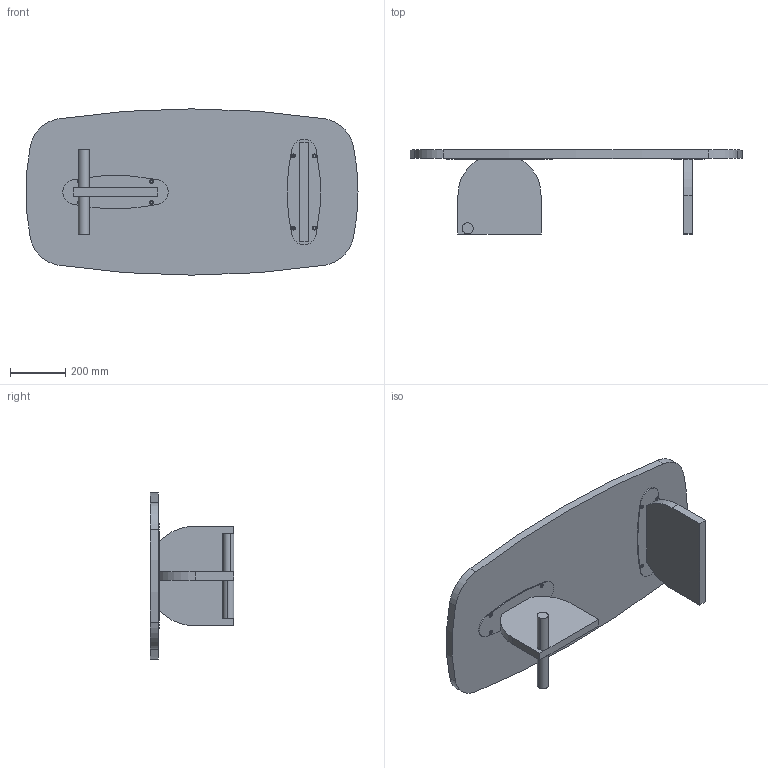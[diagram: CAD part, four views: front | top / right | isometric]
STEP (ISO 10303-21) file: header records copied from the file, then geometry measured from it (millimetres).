
FILE_DESCRIPTION (( 'STEP AP214' ), '1' );
FILE_NAME ('3D_NOVA_3_TABLE.STEP', '2024-03-27T11:09:35', ( '' ), ( '' ), 'SwSTEP 2.0', 'SolidWorks 2016', '' );
FILE_SCHEMA (( 'AUTOMOTIVE_DESIGN' ));
Length unit declared in the file: millimetre
Products named in the file (6): V2_TABLERO_PATA_MESA_COFFEE_TABLE_INDIVIDUAL; V2_TABLERO_PATA_MESA_COFFEE_TABLE_INDIVIDUAL_TRASERA; V2_MACIZO_PARA_BASE_Ø40MM; CHAPA METALICA PATA TRASERA MESA COFFEE TABLE; 3D_NOVA_3_TABLE; V2_SOBRE_SUPERIOR_MESA_COFFEE_TABLE
Assembly tree (7 placements, depth 2):
  3D_NOVA_3_TABLE
    V2_TABLERO_PATA_MESA_COFFEE_TABLE_INDIVIDUAL
    V2_SOBRE_SUPERIOR_MESA_COFFEE_TABLE
    V2_MACIZO_PARA_BASE_Ø40MM  x2
    V2_TABLERO_PATA_MESA_COFFEE_TABLE_INDIVIDUAL_TRASERA
    CHAPA METALICA PATA TRASERA MESA COFFEE TABLE  x2
Bounding box: 1198.03 x 303 x 600 mm (x, y, z)
Volume: 25321863.2 mm3; surface area: 2028330.2 mm2
Topology: 7 solids, 7 shells, 137 faces, 315 edges, 210 vertices
Faces by surface type: cylinder 65, plane 40, cone 32
Entity records: 3649 total; most frequent: DIRECTION 618, CARTESIAN_POINT 517, ORIENTED_EDGE 480, AXIS2_PLACEMENT_3D 261, EDGE_CURVE 240, VERTEX_POINT 160, CIRCLE 144, EDGE_LOOP 142
